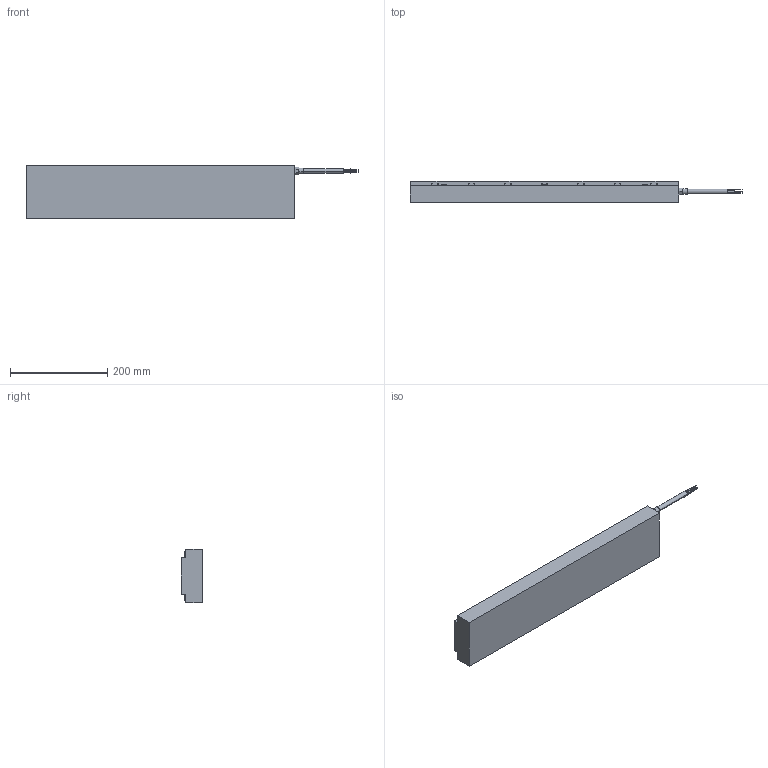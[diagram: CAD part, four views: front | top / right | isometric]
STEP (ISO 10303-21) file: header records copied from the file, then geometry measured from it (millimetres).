
FILE_DESCRIPTION((''),'2;1');
FILE_NAME('IC33_75','2010-03-09T',('brad.winesett'),('Kollmorgen'),'PRO/ENGINEER BY PARAMETRIC TECHNOLOGY CORPORATION, 2006510','PRO/ENGINEER BY PARAMETRIC TECHNOLOGY CORPORATION, 2006510','');
FILE_SCHEMA(('CONFIG_CONTROL_DESIGN'));
Length unit declared in the file: millimetre
Products named in the file (1): IC33_75
Bounding box: 682.2 x 43.3 x 110 mm (x, y, z)
Volume: 2474361.8 mm3; surface area: 209482.9 mm2
Topology: 1 solids, 22 shells, 361 faces, 900 edges, 579 vertices
Faces by surface type: plane 187, cylinder 132, cone 42
Entity records: 10510 total; most frequent: DIRECTION 1888, CARTESIAN_POINT 1799, ORIENTED_EDGE 1632, EDGE_CURVE 858, AXIS2_PLACEMENT_3D 668, VERTEX_POINT 579, VECTOR 552, LINE 552
